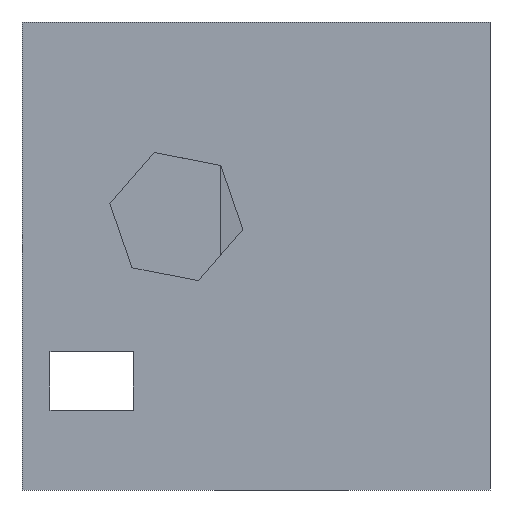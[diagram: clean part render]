
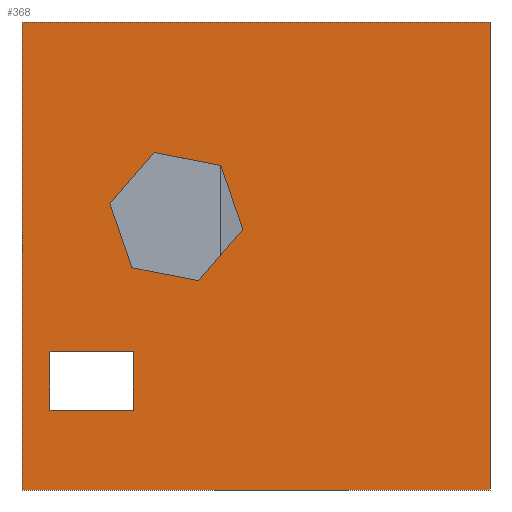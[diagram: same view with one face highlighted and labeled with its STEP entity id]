
A CAD part, front view. The second image highlights one B-rep face of the part: STEP entity #368.
In plain terms, the highlighted planar face has unit normal (0, -1, 0).
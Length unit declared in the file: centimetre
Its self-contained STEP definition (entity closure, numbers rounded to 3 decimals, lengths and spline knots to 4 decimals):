
#12 = DIRECTION ( 'NONE',  ( 0.326, 0., -0.945 ) ) ;
#13 = DIRECTION ( 'NONE',  ( 0., 0., -1. ) ) ;
#20 = VERTEX_POINT ( 'NONE', #717 ) ;
#53 = LINE ( 'NONE', #359, #876 ) ;
#64 = DIRECTION ( 'NONE',  ( 0., 0., -1. ) ) ;
#76 = VERTEX_POINT ( 'NONE', #176 ) ;
#77 = VERTEX_POINT ( 'NONE', #304 ) ;
#79 = EDGE_CURVE ( 'NONE', #77, #388, #545, .T. ) ;
#86 = CARTESIAN_POINT ( 'NONE',  ( 187.64, 0., 611.786 ) ) ;
#96 = CARTESIAN_POINT ( 'NONE',  ( 471.9949, 0., 556.6776 ) ) ;
#108 = DIRECTION ( 'NONE',  ( 1., 0., 0. ) ) ;
#117 = DIRECTION ( 'NONE',  ( 0., 0., -1. ) ) ;
#126 = CARTESIAN_POINT ( 'NONE',  ( 59.8263, 0., 170.3615 ) ) ;
#127 = FACE_BOUND ( 'NONE', #969, .T. ) ;
#131 = DIRECTION ( 'NONE',  ( -1., 0., 0. ) ) ;
#140 = DIRECTION ( 'NONE',  ( -0.326, 0., 0.945 ) ) ;
#147 = ORIENTED_EDGE ( 'NONE', *, *, #755, .T. ) ;
#150 = VECTOR ( 'NONE', #12, 100. ) ;
#173 = CARTESIAN_POINT ( 'NONE',  ( 1000., 0., 1000. ) ) ;
#175 = ORIENTED_EDGE ( 'NONE', *, *, #806, .T. ) ;
#176 = CARTESIAN_POINT ( 'NONE',  ( 237.5941, 0., 170.3615 ) ) ;
#182 = LINE ( 'NONE', #173, #391 ) ;
#196 = DIRECTION ( 'NONE',  ( 1., 0., 0. ) ) ;
#215 = DIRECTION ( 'NONE',  ( 0., 0., 1. ) ) ;
#218 = CARTESIAN_POINT ( 'NONE',  ( 471.9949, 0., 556.6776 ) ) ;
#231 = ORIENTED_EDGE ( 'NONE', *, *, #325, .F. ) ;
#264 = VECTOR ( 'NONE', #196, 100. ) ;
#273 = EDGE_CURVE ( 'NONE', #388, #760, #577, .T. ) ;
#283 = CARTESIAN_POINT ( 'NONE',  ( 59.8263, 0., 170.3615 ) ) ;
#284 = EDGE_CURVE ( 'NONE', #575, #768, #962, .T. ) ;
#285 = DIRECTION ( 'NONE',  ( 0., 1., 0. ) ) ;
#304 = CARTESIAN_POINT ( 'NONE',  ( 187.64, 0., 611.786 ) ) ;
#310 = VECTOR ( 'NONE', #13, 100. ) ;
#315 = VERTEX_POINT ( 'NONE', #520 ) ;
#318 = CARTESIAN_POINT ( 'NONE',  ( 0., 0., 1000. ) ) ;
#325 = EDGE_CURVE ( 'NONE', #611, #864, #978, .T. ) ;
#332 = ORIENTED_EDGE ( 'NONE', *, *, #353, .F. ) ;
#353 = EDGE_CURVE ( 'NONE', #20, #77, #444, .T. ) ;
#359 = CARTESIAN_POINT ( 'NONE',  ( 59.8263, 0., 170.3615 ) ) ;
#364 = PLANE ( 'NONE',  #778 ) ;
#368 = ADVANCED_FACE ( 'NONE', ( #127, #669, #666 ), #364, .F. ) ;
#371 = CARTESIAN_POINT ( 'NONE',  ( 424.7689, 0., 693.584 ) ) ;
#377 = ORIENTED_EDGE ( 'NONE', *, *, #970, .T. ) ;
#381 = ORIENTED_EDGE ( 'NONE', *, *, #683, .F. ) ;
#388 = VERTEX_POINT ( 'NONE', #981 ) ;
#391 = VECTOR ( 'NONE', #117, 100. ) ;
#423 = LINE ( 'NONE', #667, #794 ) ;
#434 = EDGE_CURVE ( 'NONE', #613, #910, #553, .T. ) ;
#439 = CARTESIAN_POINT ( 'NONE',  ( 282.5914, 0., 721.1382 ) ) ;
#443 = VECTOR ( 'NONE', #64, 100. ) ;
#444 = LINE ( 'NONE', #439, #696 ) ;
#449 = DIRECTION ( 'NONE',  ( 0.656, 0., 0.755 ) ) ;
#452 = CARTESIAN_POINT ( 'NONE',  ( 59.8263, 0., 295.7218 ) ) ;
#455 = VECTOR ( 'NONE', #131, 100. ) ;
#457 = VECTOR ( 'NONE', #449, 100. ) ;
#477 = ORIENTED_EDGE ( 'NONE', *, *, #942, .F. ) ;
#500 = CARTESIAN_POINT ( 'NONE',  ( 237.5941, 0., 295.7218 ) ) ;
#510 = CARTESIAN_POINT ( 'NONE',  ( 424.7689, 0., 693.584 ) ) ;
#512 = CARTESIAN_POINT ( 'NONE',  ( 1000., 0., 1000. ) ) ;
#514 = CARTESIAN_POINT ( 'NONE',  ( 0., 0., 1000. ) ) ;
#517 = LINE ( 'NONE', #751, #457 ) ;
#520 = CARTESIAN_POINT ( 'NONE',  ( 1000., 0., 0. ) ) ;
#544 = EDGE_CURVE ( 'NONE', #910, #76, #695, .T. ) ;
#545 = LINE ( 'NONE', #86, #150 ) ;
#553 = LINE ( 'NONE', #452, #747 ) ;
#567 = VECTOR ( 'NONE', #568, 100. ) ;
#568 = DIRECTION ( 'NONE',  ( 0.982, 0., -0.19 ) ) ;
#572 = VECTOR ( 'NONE', #982, 100. ) ;
#575 = VERTEX_POINT ( 'NONE', #318 ) ;
#577 = LINE ( 'NONE', #795, #567 ) ;
#584 = CARTESIAN_POINT ( 'NONE',  ( 0., 0., 0. ) ) ;
#593 = LINE ( 'NONE', #283, #455 ) ;
#598 = LINE ( 'NONE', #514, #443 ) ;
#611 = VERTEX_POINT ( 'NONE', #96 ) ;
#613 = VERTEX_POINT ( 'NONE', #861 ) ;
#647 = ORIENTED_EDGE ( 'NONE', *, *, #284, .F. ) ;
#666 = FACE_OUTER_BOUND ( 'NONE', #762, .T. ) ;
#667 = CARTESIAN_POINT ( 'NONE',  ( 0., 0., 0. ) ) ;
#668 = DIRECTION ( 'NONE',  ( 0., 0., 1. ) ) ;
#669 = FACE_BOUND ( 'NONE', #681, .T. ) ;
#673 = DIRECTION ( 'NONE',  ( -0.656, 0., -0.755 ) ) ;
#674 = LINE ( 'NONE', #371, #572 ) ;
#681 = EDGE_LOOP ( 'NONE', ( #803, #231, #477, #752, #700, #332 ) ) ;
#683 = EDGE_CURVE ( 'NONE', #768, #315, #182, .T. ) ;
#695 = LINE ( 'NONE', #844, #310 ) ;
#696 = VECTOR ( 'NONE', #673, 100. ) ;
#700 = ORIENTED_EDGE ( 'NONE', *, *, #79, .F. ) ;
#717 = CARTESIAN_POINT ( 'NONE',  ( 282.5914, 0., 721.1382 ) ) ;
#735 = ORIENTED_EDGE ( 'NONE', *, *, #544, .T. ) ;
#747 = VECTOR ( 'NONE', #849, 100. ) ;
#751 = CARTESIAN_POINT ( 'NONE',  ( 377.0435, 0., 447.3254 ) ) ;
#752 = ORIENTED_EDGE ( 'NONE', *, *, #273, .F. ) ;
#755 = EDGE_CURVE ( 'NONE', #76, #798, #593, .T. ) ;
#760 = VERTEX_POINT ( 'NONE', #976 ) ;
#762 = EDGE_LOOP ( 'NONE', ( #913, #381, #647, #377 ) ) ;
#768 = VERTEX_POINT ( 'NONE', #512 ) ;
#778 = AXIS2_PLACEMENT_3D ( 'NONE', #972, #285, #215 ) ;
#794 = VECTOR ( 'NONE', #108, 100. ) ;
#795 = CARTESIAN_POINT ( 'NONE',  ( 234.8661, 0., 474.8796 ) ) ;
#798 = VERTEX_POINT ( 'NONE', #126 ) ;
#803 = ORIENTED_EDGE ( 'NONE', *, *, #994, .F. ) ;
#806 = EDGE_CURVE ( 'NONE', #798, #613, #53, .T. ) ;
#822 = VECTOR ( 'NONE', #140, 100. ) ;
#842 = VERTEX_POINT ( 'NONE', #584 ) ;
#844 = CARTESIAN_POINT ( 'NONE',  ( 237.5941, 0., 170.3615 ) ) ;
#849 = DIRECTION ( 'NONE',  ( 1., 0., 0. ) ) ;
#861 = CARTESIAN_POINT ( 'NONE',  ( 59.8263, 0., 295.7218 ) ) ;
#864 = VERTEX_POINT ( 'NONE', #510 ) ;
#876 = VECTOR ( 'NONE', #668, 100. ) ;
#883 = CARTESIAN_POINT ( 'NONE',  ( 0., 0., 1000. ) ) ;
#893 = EDGE_CURVE ( 'NONE', #842, #315, #423, .T. ) ;
#910 = VERTEX_POINT ( 'NONE', #500 ) ;
#913 = ORIENTED_EDGE ( 'NONE', *, *, #893, .T. ) ;
#942 = EDGE_CURVE ( 'NONE', #760, #611, #517, .T. ) ;
#962 = LINE ( 'NONE', #883, #264 ) ;
#969 = EDGE_LOOP ( 'NONE', ( #147, #175, #989, #735 ) ) ;
#970 = EDGE_CURVE ( 'NONE', #575, #842, #598, .T. ) ;
#972 = CARTESIAN_POINT ( 'NONE',  ( 0., 0., 1000. ) ) ;
#976 = CARTESIAN_POINT ( 'NONE',  ( 377.0435, 0., 447.3254 ) ) ;
#978 = LINE ( 'NONE', #218, #822 ) ;
#981 = CARTESIAN_POINT ( 'NONE',  ( 234.8661, 0., 474.8796 ) ) ;
#982 = DIRECTION ( 'NONE',  ( -0.982, 0., 0.19 ) ) ;
#989 = ORIENTED_EDGE ( 'NONE', *, *, #434, .T. ) ;
#994 = EDGE_CURVE ( 'NONE', #864, #20, #674, .T. ) ;
